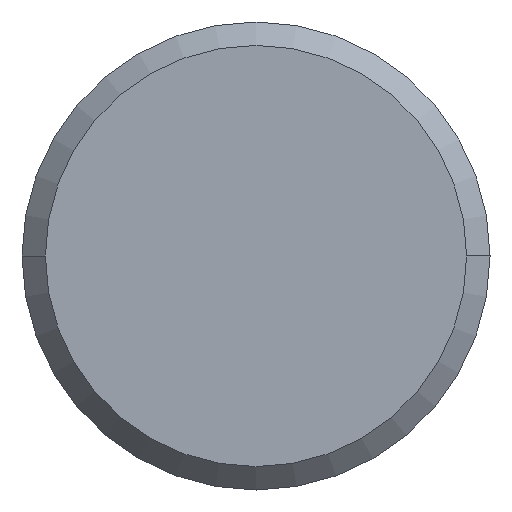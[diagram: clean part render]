
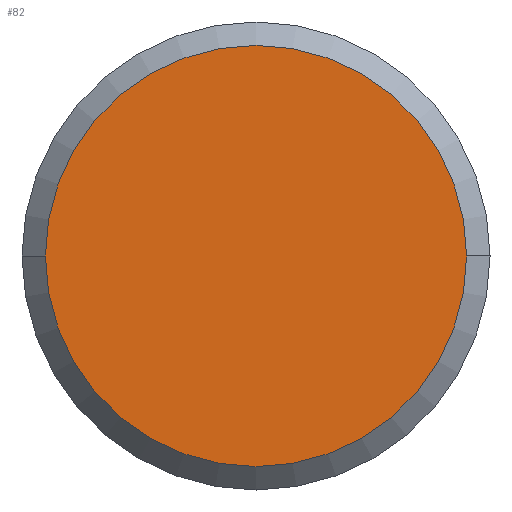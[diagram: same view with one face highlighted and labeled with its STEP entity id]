
A CAD part, left-side view. The second image highlights one B-rep face of the part: STEP entity #82.
In plain terms, the highlighted planar face has unit normal (-1, 0, 0).
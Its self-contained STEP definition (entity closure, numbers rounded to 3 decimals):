
#1 = AXIS2_PLACEMENT_3D ( 'NONE', #51, #255, #83 ) ;
#8 = DIRECTION ( 'NONE',  ( -1., 0., 0. ) ) ;
#26 = EDGE_LOOP ( 'NONE', ( #154, #29 ) ) ;
#27 = AXIS2_PLACEMENT_3D ( 'NONE', #39, #8, #192 ) ;
#29 = ORIENTED_EDGE ( 'NONE', *, *, #134, .F. ) ;
#34 = CARTESIAN_POINT ( 'NONE',  ( -42., -4.5, 0. ) ) ;
#39 = CARTESIAN_POINT ( 'NONE',  ( -42., 0., 0. ) ) ;
#51 = CARTESIAN_POINT ( 'NONE',  ( -42., 0., 0. ) ) ;
#82 = ADVANCED_FACE ( 'NONE', ( #275 ), #249, .T. ) ;
#83 = DIRECTION ( 'NONE',  ( 0., 1., 0. ) ) ;
#112 = CIRCLE ( 'NONE', #1, 4.5 ) ;
#115 = EDGE_CURVE ( 'NONE', #185, #330, #112, .T. ) ;
#134 = EDGE_CURVE ( 'NONE', #330, #185, #169, .T. ) ;
#154 = ORIENTED_EDGE ( 'NONE', *, *, #115, .F. ) ;
#169 = CIRCLE ( 'NONE', #239, 4.5 ) ;
#177 = CARTESIAN_POINT ( 'NONE',  ( -42., 0., 0. ) ) ;
#185 = VERTEX_POINT ( 'NONE', #230 ) ;
#192 = DIRECTION ( 'NONE',  ( 0., -1., 0. ) ) ;
#202 = DIRECTION ( 'NONE',  ( 0., 1., 0. ) ) ;
#230 = CARTESIAN_POINT ( 'NONE',  ( -42., 4.5, 0. ) ) ;
#239 = AXIS2_PLACEMENT_3D ( 'NONE', #177, #355, #202 ) ;
#249 = PLANE ( 'NONE',  #27 ) ;
#255 = DIRECTION ( 'NONE',  ( 1., 0., 0. ) ) ;
#275 = FACE_OUTER_BOUND ( 'NONE', #26, .T. ) ;
#330 = VERTEX_POINT ( 'NONE', #34 ) ;
#355 = DIRECTION ( 'NONE',  ( 1., 0., 0. ) ) ;
